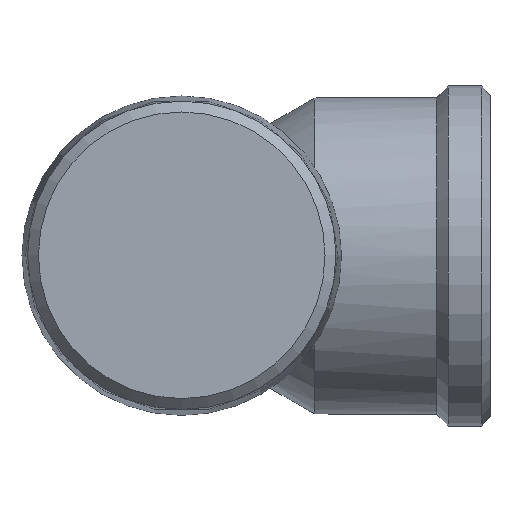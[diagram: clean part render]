
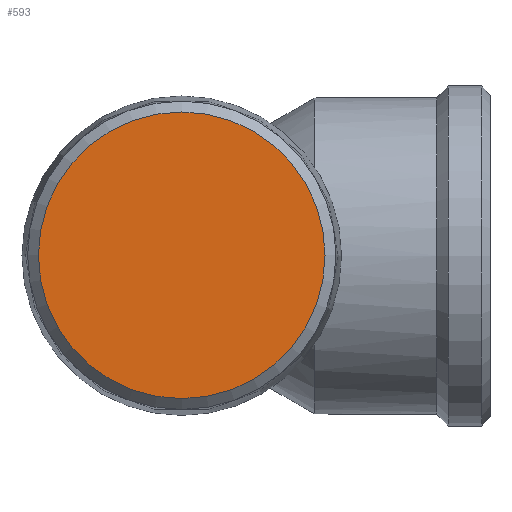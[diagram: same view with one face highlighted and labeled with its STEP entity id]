
A CAD part, top view. The second image highlights one B-rep face of the part: STEP entity #593.
In plain terms, the highlighted planar face has unit normal (0, 0, 1).
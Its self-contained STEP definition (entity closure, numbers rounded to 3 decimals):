
#70=PLANE('',#678);
#152=FACE_OUTER_BOUND('',#203,.T.);
#203=EDGE_LOOP('',(#537));
#243=CIRCLE('',#679,16.968);
#301=VERTEX_POINT('',#1145);
#381=EDGE_CURVE('',#301,#301,#243,.T.);
#537=ORIENTED_EDGE('',*,*,#381,.F.);
#593=ADVANCED_FACE('',(#152),#70,.T.);
#678=AXIS2_PLACEMENT_3D('',#1144,#847,#848);
#679=AXIS2_PLACEMENT_3D('',#1146,#849,#850);
#847=DIRECTION('center_axis',(0.,0.,1.));
#848=DIRECTION('ref_axis',(1.,0.,0.));
#849=DIRECTION('center_axis',(0.,0.,-1.));
#850=DIRECTION('ref_axis',(-1.,0.,0.));
#1144=CARTESIAN_POINT('Origin',(-8.484,0.,47.549));
#1145=CARTESIAN_POINT('',(-16.968,0.,47.549));
#1146=CARTESIAN_POINT('Origin',(0.,0.,47.549));
